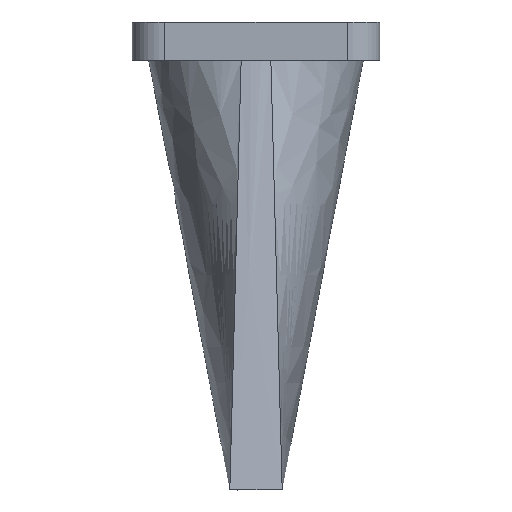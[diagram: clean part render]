
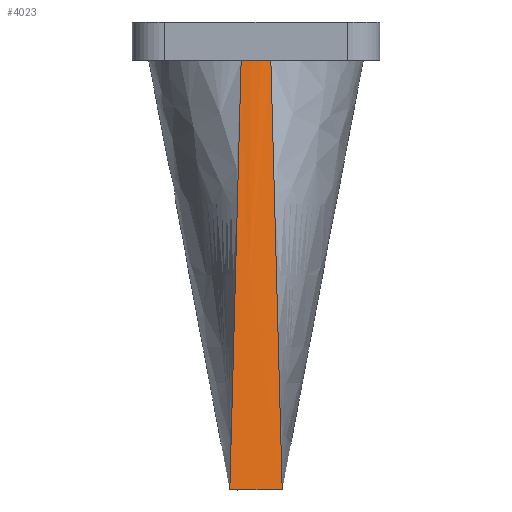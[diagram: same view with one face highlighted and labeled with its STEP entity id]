
A CAD part, front view. The second image highlights one B-rep face of the part: STEP entity #4023.
In plain terms, the highlighted free-form (B-spline) face has degree [3, 1] with [12, 4] control points.
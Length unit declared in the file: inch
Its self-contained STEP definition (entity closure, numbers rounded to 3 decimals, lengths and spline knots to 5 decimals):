
#11 = CARTESIAN_POINT ( 'NONE',  ( 22.0687, -50.95493, 0. ) ) ;
#161 = VERTEX_POINT ( 'NONE', #4965 ) ;
#274 = LINE ( 'NONE', #4203, #3576 ) ;
#313 = EDGE_CURVE ( 'NONE', #161, #4445, #3893, .T. ) ;
#413 = CARTESIAN_POINT ( 'NONE',  ( 22.20278, -50.94785, 0. ) ) ;
#469 = CARTESIAN_POINT ( 'NONE',  ( 21.92274, -51.49314, -2.90215 ) ) ;
#749 = EDGE_CURVE ( 'NONE', #5294, #2231, #1640, .T. ) ;
#846 = CARTESIAN_POINT ( 'NONE',  ( 22.21918, -51.49309, -2.90215 ) ) ;
#876 = CARTESIAN_POINT ( 'NONE',  ( 22.0354, -50.95263, 0. ) ) ;
#933 = CARTESIAN_POINT ( 'NONE',  ( 22.20201, -50.94245, 0.02873 ) ) ;
#1111 = CARTESIAN_POINT ( 'NONE',  ( 21.96479, -51.21789, -1.43671 ) ) ;
#1150 = DIRECTION ( 'NONE',  ( 0., 0., -1. ) ) ;
#1173 = VECTOR ( 'NONE', #5128, 39.37008 ) ;
#1259 = CARTESIAN_POINT ( 'NONE',  ( 22.2007, -50.94264, 0.02873 ) ) ;
#1316 = CARTESIAN_POINT ( 'NONE',  ( 21.98534, -51.48774, -2.87342 ) ) ;
#1345 = CARTESIAN_POINT ( 'NONE',  ( 22.27777, -51.49314, -2.90215 ) ) ;
#1374 = CARTESIAN_POINT ( 'NONE',  ( 22.28055, -51.48774, -2.87342 ) ) ;
#1640 = LINE ( 'NONE', #1111, #1173 ) ;
#1667 = CARTESIAN_POINT ( 'NONE',  ( 22.13532, -50.95493, 0. ) ) ;
#1680 = CARTESIAN_POINT ( 'NONE',  ( 22.10201, -50.23774, 0. ) ) ;
#1721 = CARTESIAN_POINT ( 'NONE',  ( 22.27937, -51.48774, -2.87342 ) ) ;
#1782 = CARTESIAN_POINT ( 'NONE',  ( 22.13507, -50.9496, 0.02873 ) ) ;
#1917 = CIRCLE ( 'NONE', #3382, 0.71722 ) ;
#2127 = CARTESIAN_POINT ( 'NONE',  ( 22.00202, -50.94245, 0.02873 ) ) ;
#2155 = CARTESIAN_POINT ( 'NONE',  ( 22.27895, -51.49314, -2.90215 ) ) ;
#2214 = CARTESIAN_POINT ( 'NONE',  ( 21.92391, -51.49314, -2.90215 ) ) ;
#2231 = VERTEX_POINT ( 'NONE', #4760 ) ;
#2238 = CARTESIAN_POINT ( 'NONE',  ( 22.20344, -50.94776, 0. ) ) ;
#2379 = VECTOR ( 'NONE', #2553, 39.37008 ) ;
#2500 = ORIENTED_EDGE ( 'NONE', *, *, #2702, .T. ) ;
#2547 = CARTESIAN_POINT ( 'NONE',  ( 21.92584, -51.48774, -2.87342 ) ) ;
#2553 = DIRECTION ( 'NONE',  ( -0.026, 0.185, 0.982 ) ) ;
#2610 = CARTESIAN_POINT ( 'NONE',  ( 22.23923, -51.21789, -1.43671 ) ) ;
#2632 = CARTESIAN_POINT ( 'NONE',  ( 22.16059, -51.49307, -2.90215 ) ) ;
#2660 = CARTESIAN_POINT ( 'NONE',  ( 22.00267, -50.94255, 0.02873 ) ) ;
#2676 = EDGE_LOOP ( 'NONE', ( #3083, #4118, #2500, #4496 ) ) ;
#2702 = EDGE_CURVE ( 'NONE', #4445, #2231, #1917, .T. ) ;
#2899 = DIRECTION ( 'NONE',  ( -1., 0., 0. ) ) ;
#2929 = DIRECTION ( 'NONE',  ( 1., 0., 0. ) ) ;
#2983 = CARTESIAN_POINT ( 'NONE',  ( 22.20135, -50.94254, 0.02873 ) ) ;
#3011 = CARTESIAN_POINT ( 'NONE',  ( 21.92508, -51.49314, -2.90215 ) ) ;
#3040 = FACE_OUTER_BOUND ( 'NONE', #2676, .T. ) ;
#3083 = ORIENTED_EDGE ( 'NONE', *, *, #4177, .T. ) ;
#3125 = CARTESIAN_POINT ( 'NONE',  ( 22.20267, -50.94236, 0.02873 ) ) ;
#3382 = AXIS2_PLACEMENT_3D ( 'NONE', #1680, #1150, #2899 ) ;
#3419 = CARTESIAN_POINT ( 'NONE',  ( 22.21868, -51.48774, -2.87342 ) ) ;
#3449 = CARTESIAN_POINT ( 'NONE',  ( 22.06895, -50.9496, 0.02873 ) ) ;
#3475 = CARTESIAN_POINT ( 'NONE',  ( 22.00126, -50.94785, 0. ) ) ;
#3536 = CARTESIAN_POINT ( 'NONE',  ( 22.16812, -50.94728, 0.02873 ) ) ;
#3576 = VECTOR ( 'NONE', #2929, 39.37008 ) ;
#3858 = CARTESIAN_POINT ( 'NONE',  ( 22.00257, -50.94804, 0. ) ) ;
#3888 = CARTESIAN_POINT ( 'NONE',  ( 22.00137, -50.94236, 0.02873 ) ) ;
#3893 = LINE ( 'NONE', #2610, #2379 ) ;
#3915 = CARTESIAN_POINT ( 'NONE',  ( 22.27819, -51.48774, -2.87342 ) ) ;
#3942 = CARTESIAN_POINT ( 'NONE',  ( 21.92351, -51.48774, -2.87342 ) ) ;
#3975 = CARTESIAN_POINT ( 'NONE',  ( 22.00333, -50.94264, 0.02873 ) ) ;
#3980 = CARTESIAN_POINT ( 'NONE',  ( 21.92701, -51.48774, -2.87342 ) ) ;
#3999 = CARTESIAN_POINT ( 'NONE',  ( 22.28132, -51.49314, -2.90215 ) ) ;
#4023 = ADVANCED_FACE ( 'NONE', ( #3040 ), #5089, .T. ) ;
#4118 = ORIENTED_EDGE ( 'NONE', *, *, #313, .T. ) ;
#4177 = EDGE_CURVE ( 'NONE', #5294, #161, #274, .T. ) ;
#4203 = CARTESIAN_POINT ( 'NONE',  ( 21.92701, -51.48774, -2.87342 ) ) ;
#4293 = CARTESIAN_POINT ( 'NONE',  ( 22.20146, -50.94806, 0. ) ) ;
#4374 = CARTESIAN_POINT ( 'NONE',  ( 22.20212, -50.94794, 0. ) ) ;
#4402 = CARTESIAN_POINT ( 'NONE',  ( 22.16034, -51.48774, -2.87342 ) ) ;
#4430 = CARTESIAN_POINT ( 'NONE',  ( 21.98484, -51.49309, -2.90215 ) ) ;
#4445 = VERTEX_POINT ( 'NONE', #4293 ) ;
#4496 = ORIENTED_EDGE ( 'NONE', *, *, #749, .F. ) ;
#4760 = CARTESIAN_POINT ( 'NONE',  ( 22.00257, -50.94806, 0. ) ) ;
#4776 = CARTESIAN_POINT ( 'NONE',  ( 22.16863, -50.95263, 0. ) ) ;
#4805 = CARTESIAN_POINT ( 'NONE',  ( 22.0359, -50.94728, 0.02873 ) ) ;
#4832 = CARTESIAN_POINT ( 'NONE',  ( 22.00191, -50.94794, 0. ) ) ;
#4965 = CARTESIAN_POINT ( 'NONE',  ( 22.27701, -51.48774, -2.87342 ) ) ;
#5089 = B_SPLINE_SURFACE_WITH_KNOTS ( 'NONE', 3, 1, ( 
 ( #469, #3942, #5247, #3888 ),
 ( #2214, #5631, #3475, #2127 ),
 ( #3011, #2547, #4832, #2660 ),
 ( #5719, #5218, #3858, #3975 ),
 ( #4430, #1316, #876, #4805 ),
 ( #5275, #5660, #11, #3449 ),
 ( #2632, #4402, #1667, #1782 ),
 ( #846, #3419, #4776, #3536 ),
 ( #1345, #5306, #5190, #1259 ),
 ( #2155, #3915, #4374, #2983 ),
 ( #5689, #1721, #413, #933 ),
 ( #3999, #1374, #2238, #3125 ) ),
 .UNSPECIFIED., .F., .F., .F.,
 ( 4, 3, 2, 3, 4 ),
 ( 2, 1, 1, 2 ),
 ( -0.01, 0., 0.5, 1., 1.0101 ),
 ( -0.01, 0., 1., 1.01 ),
 .UNSPECIFIED. ) ;
#5128 = DIRECTION ( 'NONE',  ( 0.026, 0.185, 0.982 ) ) ;
#5190 = CARTESIAN_POINT ( 'NONE',  ( 22.20145, -50.94804, 0. ) ) ;
#5218 = CARTESIAN_POINT ( 'NONE',  ( 21.92701, -51.48774, -2.87342 ) ) ;
#5247 = CARTESIAN_POINT ( 'NONE',  ( 22.0006, -50.94776, 0. ) ) ;
#5275 = CARTESIAN_POINT ( 'NONE',  ( 22.04343, -51.49307, -2.90215 ) ) ;
#5294 = VERTEX_POINT ( 'NONE', #3980 ) ;
#5306 = CARTESIAN_POINT ( 'NONE',  ( 22.27701, -51.48774, -2.87342 ) ) ;
#5631 = CARTESIAN_POINT ( 'NONE',  ( 21.92468, -51.48774, -2.87342 ) ) ;
#5660 = CARTESIAN_POINT ( 'NONE',  ( 22.04368, -51.48774, -2.87342 ) ) ;
#5689 = CARTESIAN_POINT ( 'NONE',  ( 22.28013, -51.49314, -2.90215 ) ) ;
#5719 = CARTESIAN_POINT ( 'NONE',  ( 21.92626, -51.49314, -2.90215 ) ) ;
